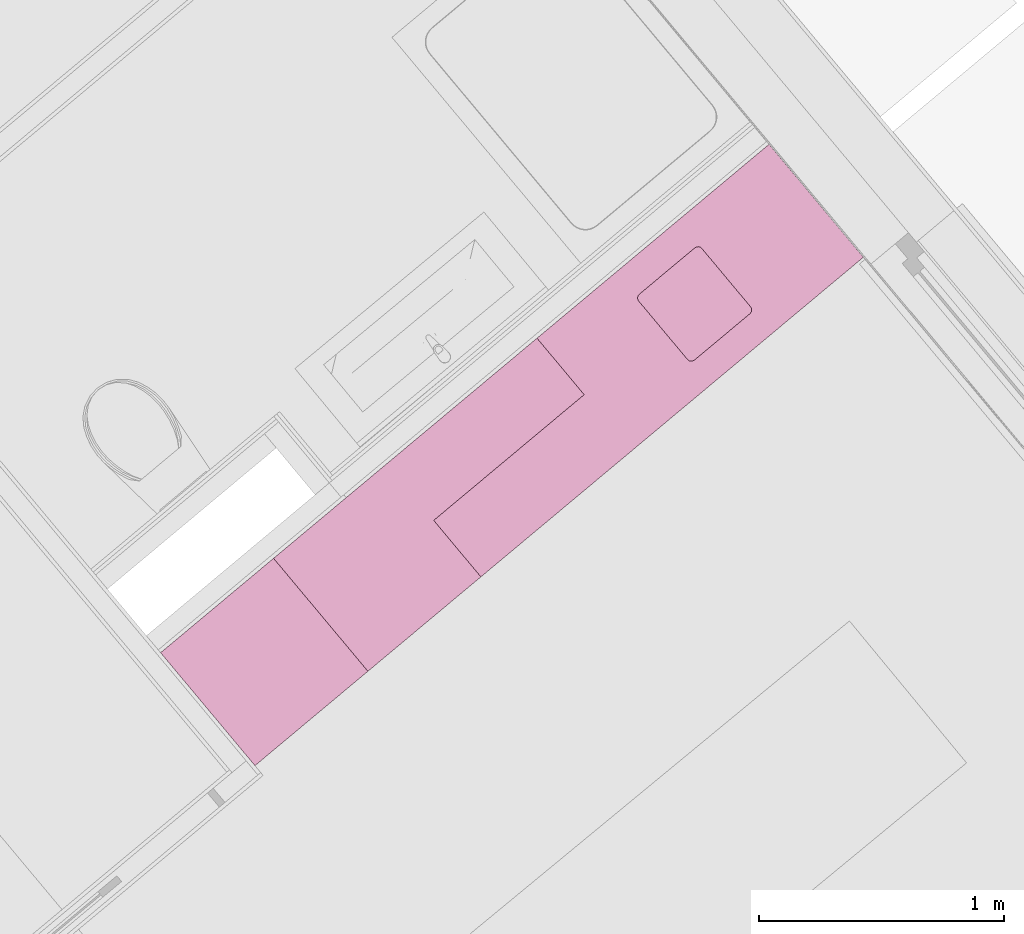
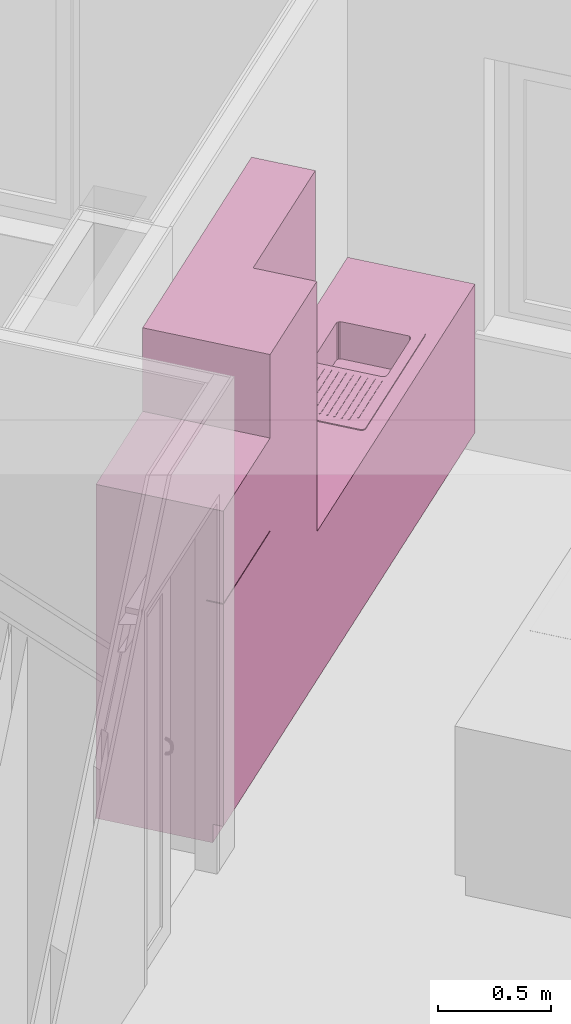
# One storey, part 66 of 67: 1 furniture element.
"""IFC4 building model written with IfcOpenShell, lengths in metres."""

from ifc_helpers import new_model, entity, si_unit, converted_unit, derived_unit, direction, frame, origin_with_axes, place, context, subcontext, project, spatial, polygons, source, transform, mapped, type_object, element, save


model = new_model("IFC4")

# Units and contexts
model_context = context("Model", 3, precision=1e-05, world=origin_with_axes(), true_north=direction((0.0, 1.0)))
body_context = subcontext(model_context, "Body", "Model", "MODEL_VIEW")
ifc_project = project(units=[si_unit("LENGTHUNIT", "METRE"), si_unit("AREAUNIT", "SQUARE_METRE"), si_unit("VOLUMEUNIT", "CUBIC_METRE"), converted_unit("PLANEANGLEUNIT", "DEGREE", entity("IfcPlaneAngleMeasure", 0.0174532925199), si_unit("PLANEANGLEUNIT", "RADIAN"), dimensions=[0, 0, 0, 0, 0, 0, 0]), converted_unit("TIMEUNIT", "Year", entity("IfcTimeMeasure", 31556926.0), si_unit("TIMEUNIT", "SECOND"), dimensions=[0, 0, 1, 0, 0, 0, 0]), si_unit("MASSUNIT", "GRAM", prefix="KILO"), si_unit("THERMODYNAMICTEMPERATUREUNIT", "DEGREE_CELSIUS"), si_unit("LUMINOUSINTENSITYUNIT", "LUMEN"), si_unit("ENERGYUNIT", "JOULE", prefix="MEGA"), derived_unit("THERMALCONDUCTANCEUNIT", [(si_unit("POWERUNIT", "WATT"), 1), (si_unit("LENGTHUNIT", "METRE"), -1), (si_unit("THERMODYNAMICTEMPERATUREUNIT", "KELVIN"), -1)]), derived_unit("SPECIFICHEATCAPACITYUNIT", [(si_unit("ENERGYUNIT", "JOULE"), 1), (si_unit("MASSUNIT", "GRAM", prefix="KILO"), -1), (si_unit("THERMODYNAMICTEMPERATUREUNIT", "KELVIN"), -1)]), derived_unit("MASSDENSITYUNIT", [(si_unit("MASSUNIT", "GRAM", prefix="KILO"), 1), (si_unit("VOLUMEUNIT", "CUBIC_METRE"), -1)])], contexts=[model_context])

# Site, building, storey
site_placement = place(None, frame((-0.00153261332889, -0.00661245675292, 0.0), z_axis=(0.0, 0.0, 1.0), x_axis=(1.0, 0.0, 0.0)))
site = spatial("IfcSite", under=ifc_project, at=site_placement, Name="Site", CompositionType="ELEMENT")
building_placement = place(site_placement, origin_with_axes())
building = spatial("IfcBuilding", under=site, at=building_placement, Name="Building", CompositionType="ELEMENT")
storey_placement = place(building_placement, frame((0.0, 0.0, -0.22), z_axis=(0.0, 0.0, 1.0), x_axis=(1.0, 0.0, 0.0)))
storey = spatial("IfcBuildingStorey", under=building, at=storey_placement, Name="EG", CompositionType="ELEMENT", Elevation=-0.22)

# Furniture
furniture_type = type_object("IfcFurnitureType", Name="Konzeptküche 26", AssemblyPlace="NOTDEFINED", PredefinedType="NOTDEFINED")
shared_shape = source(origin_with_axes(), body_context, "Body", "Tessellation", [
    polygons([(-0.968323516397, 0.0, 0.0), (-0.968323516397, 0.0, 0.1), (-3.0, 0.0, 0.1), (-3.0, 0.0, 0.0), (-0.968323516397, 0.55, 0.0), (-0.968323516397, 0.55, 0.1), (-3.0, 0.55, 0.1), (-3.0, 0.55, 0.0)], [[[1, 2, 3, 4]], [[5, 6, 2, 1]], [[2, 6, 7, 3]], [[4, 3, 7, 8]], [[1, 4, 8, 5]], [[8, 7, 6, 5]]], closed=True),
    polygons([(-0.968323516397, 0.6, 0.85), (-0.968323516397, 0.0, 0.85), (-3.0, 0.0, 0.85), (-3.0, 0.6, 0.85), (-1.79253770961, 0.055, 0.85), (-1.79253770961, 0.505, 0.85), (-2.54253770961, 0.505, 0.85), (-2.54253770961, 0.055, 0.85), (-0.968323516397, 0.6, 0.9), (-0.968323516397, 0.0, 0.9), (-3.0, 0.0, 0.9), (-3.0, 0.6, 0.9), (-1.79253770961, 0.505, 0.9), (-1.79253770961, 0.055, 0.9), (-2.54253770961, 0.505, 0.9), (-2.54253770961, 0.055, 0.9)], [[[1, 2, 3, 4], [5, 6, 7, 8]], [[2, 1, 9, 10]], [[3, 2, 10, 11]], [[4, 3, 11, 12]], [[1, 4, 12, 9]], [[13, 6, 5, 14]], [[15, 7, 6, 13]], [[16, 8, 7, 15]], [[14, 5, 8, 16]], [[11, 10, 9, 12], [14, 16, 15, 13]]], closed=True),
    polygons([(-0.968323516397, 0.6, 0.1), (-0.968323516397, 0.0, 0.1), (-3.0, 0.0, 0.1), (-3.0, 0.6, 0.1), (-1.79253770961, 0.055, 0.1), (-1.79253770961, 0.505, 0.1), (-2.54253770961, 0.505, 0.1), (-2.54253770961, 0.055, 0.1), (-0.968323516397, 0.6, 0.85), (-0.968323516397, 0.0, 0.85), (-3.0, 0.0, 0.85), (-3.0, 0.6, 0.85), (-1.79253770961, 0.505, 0.85), (-1.79253770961, 0.055, 0.85), (-2.54253770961, 0.505, 0.85), (-2.54253770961, 0.055, 0.85)], [[[1, 2, 3, 4], [5, 6, 7, 8]], [[2, 1, 9, 10]], [[3, 2, 10, 11]], [[4, 3, 11, 12]], [[1, 4, 12, 9]], [[13, 6, 5, 14]], [[15, 7, 6, 13]], [[16, 8, 7, 15]], [[14, 5, 8, 16]], [[11, 10, 9, 12], [14, 16, 15, 13]]], closed=True),
    polygons([(-0.968323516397, 0.0, 1.5), (-0.968323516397, 0.0, 2.25), (-1.76753770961, 0.0, 2.25), (-1.76753770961, 0.0, 1.5), (-0.968323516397, 0.3, 1.5), (-0.968323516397, 0.3, 2.25), (-1.76753770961, 0.3, 2.25), (-1.76753770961, 0.3, 1.5)], [[[1, 2, 3, 4]], [[5, 6, 2, 1]], [[2, 6, 7, 3]], [[4, 3, 7, 8]], [[1, 4, 8, 5]], [[8, 7, 6, 5]]], closed=True),
    polygons([(-0.368323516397, 0.52, 0.0), (-0.368323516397, 0.52, 0.1), (-0.368323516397, 0.55, 0.1), (-0.368323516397, 0.55, 0.0), (0.231676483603, 0.52, 0.0), (0.231676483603, 0.52, 0.1), (0.231676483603, 0.55, 0.1), (0.231676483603, 0.55, 0.0)], [[[1, 2, 3, 4]], [[5, 6, 2, 1]], [[2, 6, 7, 3]], [[4, 3, 7, 8]], [[1, 4, 8, 5]], [[8, 7, 6, 5]]], closed=True),
    polygons([(-0.368323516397, 0.52, 0.0), (-0.368323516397, 0.52, 1.8), (0.231676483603, 0.52, 1.8), (0.231676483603, 0.52, 0.0), (-0.368323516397, 0.0, 0.0), (-0.368323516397, 0.0, 1.8), (0.231676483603, 0.0, 1.8), (0.231676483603, 0.0, 0.0)], [[[1, 2, 3, 4]], [[5, 6, 2, 1]], [[2, 6, 7, 3]], [[4, 3, 7, 8]], [[1, 4, 8, 5]], [[8, 7, 6, 5]]], closed=True),
    polygons([(-0.368323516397, 0.5199, 0.1), (-0.368323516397, 0.5199, 1.2975), (-0.368323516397, 0.6, 1.2975), (-0.368323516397, 0.6, 0.1), (0.231676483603, 0.5199, 0.1), (0.231676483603, 0.5199, 1.2975), (0.231676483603, 0.6, 1.2975), (0.231676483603, 0.6, 0.1)], [[[1, 2, 3, 4]], [[5, 6, 2, 1]], [[2, 6, 7, 3]], [[4, 3, 7, 8]], [[1, 4, 8, 5]], [[8, 7, 6, 5]]], closed=True),
    polygons([(-0.368323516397, 0.5199, 1.3025), (-0.368323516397, 0.5199, 1.8), (-0.368323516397, 0.6, 1.8), (-0.368323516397, 0.6, 1.3025), (0.231676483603, 0.5199, 1.3025), (0.231676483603, 0.5199, 1.8), (0.231676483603, 0.6, 1.8), (0.231676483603, 0.6, 1.3025)], [[[1, 2, 3, 4]], [[5, 6, 2, 1]], [[2, 6, 7, 3]], [[4, 3, 7, 8]], [[1, 4, 8, 5]], [[8, 7, 6, 5]]], closed=True),
    polygons([(-2.49753770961, 0.48, 0.705), (-2.49753770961, 0.48, 0.9), (-2.20253770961, 0.48, 0.9), (-2.20253770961, 0.48, 0.705), (-2.50519137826, 0.47847759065, 0.705), (-2.50519137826, 0.47847759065, 0.9), (-2.19488404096, 0.47847759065, 0.9), (-2.19488404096, 0.47847759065, 0.705), (-2.18839557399, 0.474142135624, 0.705), (-2.18406011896, 0.467653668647, 0.705), (-2.18253770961, 0.46, 0.705), (-2.18253770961, 0.15, 0.705), (-2.18406011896, 0.142346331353, 0.705), (-2.18839557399, 0.135857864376, 0.705), (-2.19488404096, 0.13152240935, 0.705), (-2.20253770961, 0.13, 0.705), (-2.49753770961, 0.13, 0.705), (-2.50519137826, 0.13152240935, 0.705), (-2.51167984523, 0.135857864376, 0.705), (-2.51601530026, 0.142346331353, 0.705), (-2.51753770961, 0.15, 0.705), (-2.51753770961, 0.46, 0.705), (-2.51601530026, 0.467653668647, 0.705), (-2.51167984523, 0.474142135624, 0.705), (-2.51167984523, 0.474142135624, 0.9), (-2.18839557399, 0.474142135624, 0.9), (-2.18406011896, 0.467653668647, 0.9), (-2.18253770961, 0.46, 0.9), (-2.18253770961, 0.15, 0.9), (-2.18406011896, 0.142346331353, 0.9), (-2.18839557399, 0.135857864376, 0.9), (-2.19488404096, 0.13152240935, 0.9), (-2.20253770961, 0.13, 0.9), (-2.49753770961, 0.13, 0.9), (-2.50519137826, 0.13152240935, 0.9), (-2.51167984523, 0.135857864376, 0.9), (-2.51601530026, 0.142346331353, 0.9), (-2.51753770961, 0.15, 0.9), (-2.51753770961, 0.46, 0.9), (-2.51601530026, 0.467653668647, 0.9)], [[[1, 2, 3, 4]], [[5, 6, 2, 1]], [[4, 3, 7, 8]], [[1, 4, 8, 9, 10, 11, 12, 13, 14, 15, 16, 17, 18, 19, 20, 21, 22, 23, 24, 5]], [[24, 25, 6, 5]], [[8, 7, 26, 9]], [[9, 26, 27, 10]], [[10, 27, 28, 11]], [[11, 28, 29, 12]], [[12, 29, 30, 13]], [[13, 30, 31, 14]], [[14, 31, 32, 15]], [[15, 32, 33, 16]], [[16, 33, 34, 17]], [[17, 34, 35, 18]], [[18, 35, 36, 19]], [[19, 36, 37, 20]], [[20, 37, 38, 21]], [[21, 38, 39, 22]], [[22, 39, 40, 23]], [[23, 40, 25, 24]]], closed=False),
    polygons([(-2.54753770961, 0.53, 0.9), (-2.54753770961, 0.53, 0.905), (-1.78753770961, 0.53, 0.905), (-1.78753770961, 0.53, 0.9), (-2.55519137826, 0.52847759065, 0.9), (-2.55519137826, 0.52847759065, 0.905), (-2.56167984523, 0.524142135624, 0.905), (-2.56601530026, 0.517653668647, 0.905), (-2.56753770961, 0.51, 0.905), (-2.56753770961, 0.05, 0.905), (-2.56601530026, 0.0423463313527, 0.905), (-2.56167984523, 0.0358578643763, 0.905), (-2.55519137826, 0.0315224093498, 0.905), (-2.54753770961, 0.03, 0.905), (-1.78753770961, 0.03, 0.905), (-1.77988404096, 0.0315224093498, 0.905), (-1.77339557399, 0.0358578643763, 0.905), (-1.76906011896, 0.0423463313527, 0.905), (-1.76753770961, 0.05, 0.905), (-1.76753770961, 0.51, 0.905), (-1.76906011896, 0.517653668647, 0.905), (-1.77339557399, 0.524142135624, 0.905), (-1.77988404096, 0.52847759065, 0.905), (-2.49753770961, 0.48, 0.905), (-2.20253770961, 0.48, 0.905), (-2.19488404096, 0.47847759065, 0.905), (-2.18839557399, 0.474142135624, 0.905), (-2.18406011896, 0.467653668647, 0.905), (-2.18253770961, 0.46, 0.905), (-2.18253770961, 0.15, 0.905), (-2.18406011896, 0.142346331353, 0.905), (-2.18839557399, 0.135857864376, 0.905), (-2.19488404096, 0.13152240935, 0.905), (-2.20253770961, 0.13, 0.905), (-2.49753770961, 0.13, 0.905), (-2.50519137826, 0.13152240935, 0.905), (-2.51167984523, 0.135857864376, 0.905), (-2.51601530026, 0.142346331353, 0.905), (-2.51753770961, 0.15, 0.905), (-2.51753770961, 0.46, 0.905), (-2.51601530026, 0.467653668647, 0.905), (-2.51167984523, 0.474142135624, 0.905), (-2.50519137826, 0.47847759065, 0.905), (-1.77988404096, 0.52847759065, 0.9), (-1.77339557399, 0.524142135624, 0.9), (-1.76906011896, 0.517653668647, 0.9), (-1.76753770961, 0.51, 0.9), (-1.76753770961, 0.05, 0.9), (-1.76906011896, 0.0423463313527, 0.9), (-1.77339557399, 0.0358578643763, 0.9), (-1.77988404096, 0.0315224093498, 0.9), (-1.78753770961, 0.03, 0.9), (-2.54753770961, 0.03, 0.9), (-2.55519137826, 0.0315224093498, 0.9), (-2.56167984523, 0.0358578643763, 0.9), (-2.56601530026, 0.0423463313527, 0.9), (-2.56753770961, 0.05, 0.9), (-2.56753770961, 0.51, 0.9), (-2.56601530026, 0.517653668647, 0.9), (-2.56167984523, 0.524142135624, 0.9), (-2.49753770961, 0.48, 0.9), (-2.50519137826, 0.47847759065, 0.9), (-2.51167984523, 0.474142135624, 0.9), (-2.51601530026, 0.467653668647, 0.9), (-2.51753770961, 0.46, 0.9), (-2.51753770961, 0.15, 0.9), (-2.51601530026, 0.142346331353, 0.9), (-2.51167984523, 0.135857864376, 0.9), (-2.50519137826, 0.13152240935, 0.9), (-2.49753770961, 0.13, 0.9), (-2.20253770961, 0.13, 0.9), (-2.19488404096, 0.13152240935, 0.9), (-2.18839557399, 0.135857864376, 0.9), (-2.18406011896, 0.142346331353, 0.9), (-2.18253770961, 0.15, 0.9), (-2.18253770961, 0.46, 0.9), (-2.18406011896, 0.467653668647, 0.9), (-2.18839557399, 0.474142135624, 0.9), (-2.19488404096, 0.47847759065, 0.9), (-2.20253770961, 0.48, 0.9)], [[[1, 2, 3, 4]], [[5, 6, 2, 1]], [[2, 6, 7, 8, 9, 10, 11, 12, 13, 14, 15, 16, 17, 18, 19, 20, 21, 22, 23, 3], [24, 25, 26, 27, 28, 29, 30, 31, 32, 33, 34, 35, 36, 37, 38, 39, 40, 41, 42, 43]], [[4, 3, 23, 44]], [[1, 4, 44, 45, 46, 47, 48, 49, 50, 51, 52, 53, 54, 55, 56, 57, 58, 59, 60, 5], [61, 62, 63, 64, 65, 66, 67, 68, 69, 70, 71, 72, 73, 74, 75, 76, 77, 78, 79, 80]], [[60, 7, 6, 5]], [[59, 8, 7, 60]], [[58, 9, 8, 59]], [[57, 10, 9, 58]], [[56, 11, 10, 57]], [[55, 12, 11, 56]], [[54, 13, 12, 55]], [[53, 14, 13, 54]], [[52, 15, 14, 53]], [[51, 16, 15, 52]], [[50, 17, 16, 51]], [[49, 18, 17, 50]], [[48, 19, 18, 49]], [[47, 20, 19, 48]], [[46, 21, 20, 47]], [[45, 22, 21, 46]], [[44, 23, 22, 45]], [[80, 25, 24, 61]], [[79, 26, 25, 80]], [[78, 27, 26, 79]], [[77, 28, 27, 78]], [[76, 29, 28, 77]], [[75, 30, 29, 76]], [[74, 31, 30, 75]], [[73, 32, 31, 74]], [[72, 33, 32, 73]], [[71, 34, 33, 72]], [[70, 35, 34, 71]], [[69, 36, 35, 70]], [[68, 37, 36, 69]], [[67, 38, 37, 68]], [[66, 39, 38, 67]], [[65, 40, 39, 66]], [[64, 41, 40, 65]], [[63, 42, 41, 64]], [[62, 43, 42, 63]], [[61, 24, 43, 62]]], closed=True),
    polygons([(-2.15253770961, 0.475, 0.905), (-2.15253770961, 0.475, 0.907), (-1.84753770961, 0.475, 0.907), (-1.84753770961, 0.475, 0.905), (-2.15253770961, 0.47, 0.905), (-2.15253770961, 0.47, 0.907), (-1.84753770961, 0.47, 0.907), (-1.84753770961, 0.47, 0.905)], [[[1, 2, 3, 4]], [[5, 6, 2, 1]], [[2, 6, 7, 3]], [[4, 3, 7, 8]], [[1, 4, 8, 5]], [[8, 7, 6, 5]]], closed=True),
    polygons([(-2.15253770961, 0.441, 0.905), (-2.15253770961, 0.441, 0.907), (-1.81753770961, 0.441, 0.907), (-1.81753770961, 0.441, 0.905), (-2.15253770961, 0.436, 0.905), (-2.15253770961, 0.436, 0.907), (-1.81753770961, 0.436, 0.907), (-1.81753770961, 0.436, 0.905)], [[[1, 2, 3, 4]], [[5, 6, 2, 1]], [[2, 6, 7, 3]], [[4, 3, 7, 8]], [[1, 4, 8, 5]], [[8, 7, 6, 5]]], closed=True),
    polygons([(-2.15253770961, 0.407, 0.905), (-2.15253770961, 0.407, 0.907), (-1.81753770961, 0.407, 0.907), (-1.81753770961, 0.407, 0.905), (-2.15253770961, 0.402, 0.905), (-2.15253770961, 0.402, 0.907), (-1.81753770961, 0.402, 0.907), (-1.81753770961, 0.402, 0.905)], [[[1, 2, 3, 4]], [[5, 6, 2, 1]], [[2, 6, 7, 3]], [[4, 3, 7, 8]], [[1, 4, 8, 5]], [[8, 7, 6, 5]]], closed=True),
    polygons([(-2.15253770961, 0.373, 0.905), (-2.15253770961, 0.373, 0.907), (-1.81753770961, 0.373, 0.907), (-1.81753770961, 0.373, 0.905), (-2.15253770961, 0.368, 0.905), (-2.15253770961, 0.368, 0.907), (-1.81753770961, 0.368, 0.907), (-1.81753770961, 0.368, 0.905)], [[[1, 2, 3, 4]], [[5, 6, 2, 1]], [[2, 6, 7, 3]], [[4, 3, 7, 8]], [[1, 4, 8, 5]], [[8, 7, 6, 5]]], closed=True),
    polygons([(-2.15253770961, 0.339, 0.905), (-2.15253770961, 0.339, 0.907), (-1.81753770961, 0.339, 0.907), (-1.81753770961, 0.339, 0.905), (-2.15253770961, 0.334, 0.905), (-2.15253770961, 0.334, 0.907), (-1.81753770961, 0.334, 0.907), (-1.81753770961, 0.334, 0.905)], [[[1, 2, 3, 4]], [[5, 6, 2, 1]], [[2, 6, 7, 3]], [[4, 3, 7, 8]], [[1, 4, 8, 5]], [[8, 7, 6, 5]]], closed=True),
    polygons([(-2.15253770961, 0.305, 0.905), (-2.15253770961, 0.305, 0.907), (-1.81753770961, 0.305, 0.907), (-1.81753770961, 0.305, 0.905), (-2.15253770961, 0.3, 0.905), (-2.15253770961, 0.3, 0.907), (-1.81753770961, 0.3, 0.907), (-1.81753770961, 0.3, 0.905)], [[[1, 2, 3, 4]], [[5, 6, 2, 1]], [[2, 6, 7, 3]], [[4, 3, 7, 8]], [[1, 4, 8, 5]], [[8, 7, 6, 5]]], closed=True),
    polygons([(-2.15253770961, 0.271, 0.905), (-2.15253770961, 0.271, 0.907), (-1.81753770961, 0.271, 0.907), (-1.81753770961, 0.271, 0.905), (-2.15253770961, 0.266, 0.905), (-2.15253770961, 0.266, 0.907), (-1.81753770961, 0.266, 0.907), (-1.81753770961, 0.266, 0.905)], [[[1, 2, 3, 4]], [[5, 6, 2, 1]], [[2, 6, 7, 3]], [[4, 3, 7, 8]], [[1, 4, 8, 5]], [[8, 7, 6, 5]]], closed=True),
    polygons([(-2.15253770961, 0.237, 0.905), (-2.15253770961, 0.237, 0.907), (-1.81753770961, 0.237, 0.907), (-1.81753770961, 0.237, 0.905), (-2.15253770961, 0.232, 0.905), (-2.15253770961, 0.232, 0.907), (-1.81753770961, 0.232, 0.907), (-1.81753770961, 0.232, 0.905)], [[[1, 2, 3, 4]], [[5, 6, 2, 1]], [[2, 6, 7, 3]], [[4, 3, 7, 8]], [[1, 4, 8, 5]], [[8, 7, 6, 5]]], closed=True),
    polygons([(-2.15253770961, 0.203, 0.905), (-2.15253770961, 0.203, 0.907), (-1.81753770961, 0.203, 0.907), (-1.81753770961, 0.203, 0.905), (-2.15253770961, 0.198, 0.905), (-2.15253770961, 0.198, 0.907), (-1.81753770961, 0.198, 0.907), (-1.81753770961, 0.198, 0.905)], [[[1, 2, 3, 4]], [[5, 6, 2, 1]], [[2, 6, 7, 3]], [[4, 3, 7, 8]], [[1, 4, 8, 5]], [[8, 7, 6, 5]]], closed=True),
    polygons([(-2.15253770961, 0.169, 0.905), (-2.15253770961, 0.169, 0.907), (-1.81753770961, 0.169, 0.907), (-1.81753770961, 0.169, 0.905), (-2.15253770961, 0.164, 0.905), (-2.15253770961, 0.164, 0.907), (-1.81753770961, 0.164, 0.907), (-1.81753770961, 0.164, 0.905)], [[[1, 2, 3, 4]], [[5, 6, 2, 1]], [[2, 6, 7, 3]], [[4, 3, 7, 8]], [[1, 4, 8, 5]], [[8, 7, 6, 5]]], closed=True),
    polygons([(-2.15253770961, 0.135, 0.905), (-2.15253770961, 0.135, 0.907), (-1.84753770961, 0.135, 0.907), (-1.84753770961, 0.135, 0.905), (-2.15253770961, 0.13, 0.905), (-2.15253770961, 0.13, 0.907), (-1.84753770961, 0.13, 0.907), (-1.84753770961, 0.13, 0.905)], [[[1, 2, 3, 4]], [[5, 6, 2, 1]], [[2, 6, 7, 3]], [[4, 3, 7, 8]], [[1, 4, 8, 5]], [[8, 7, 6, 5]]], closed=True),
    polygons([(-0.968323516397, 0.55, 0.0), (-0.968323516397, 0.55, 0.1), (-0.368323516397, 0.55, 0.1), (-0.368323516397, 0.55, 0.0), (-0.968323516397, 0.0, 0.0), (-0.968323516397, 0.0, 0.1), (-0.368323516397, 0.0, 0.1), (-0.368323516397, 0.0, 0.0)], [[[1, 2, 3, 4]], [[5, 6, 2, 1]], [[2, 6, 7, 3]], [[4, 3, 7, 8]], [[1, 4, 8, 5]], [[8, 7, 6, 5]]], closed=True),
    polygons([(-0.968323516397, 0.6, 0.1), (-0.968323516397, 0.6, 2.25), (-0.368323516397, 0.6, 2.25), (-0.368323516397, 0.6, 0.1), (-0.968323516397, 0.0, 0.1), (-0.968323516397, 0.0, 2.25), (-0.368323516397, 0.0, 2.25), (-0.368323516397, 0.0, 0.1)], [[[1, 2, 3, 4]], [[5, 6, 2, 1]], [[2, 6, 7, 3]], [[4, 3, 7, 8]], [[1, 4, 8, 5]], [[8, 7, 6, 5]]], closed=True),
])
furniture_placement = place(storey_placement, frame((6.58657113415, 23.0964081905, 0.22), z_axis=(0.0, 0.0, 1.0), x_axis=(-0.767365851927, -0.641209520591, 0.0)))
element("IfcFurniture", 1, at=furniture_placement, inside=storey, type_object=furniture_type, Name="Objekt-0002", PredefinedType="NOTDEFINED", context=body_context, shape_type="MappedRepresentation", body=[
    mapped(shared_shape, transform((0.0, 0.0, 0.0))),
])

save(model, "model.ifc")
